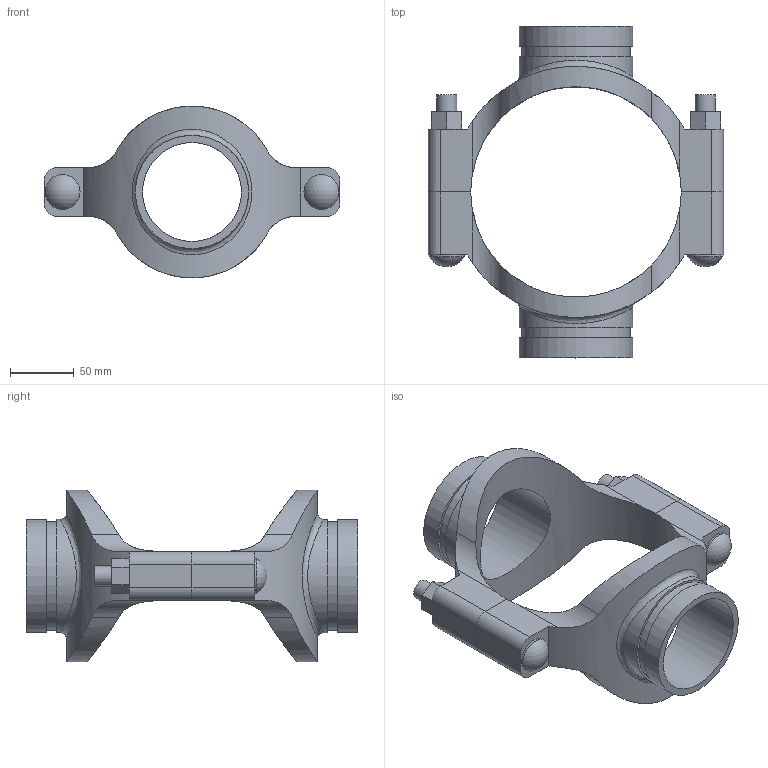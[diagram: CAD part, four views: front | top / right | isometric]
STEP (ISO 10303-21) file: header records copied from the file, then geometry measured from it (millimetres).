
FILE_DESCRIPTION(/* description */ ('VIC MECH-T BRANCH OUTLET CROSS STYLE 920N (GRVD)','CAx-IF Rec.Pracs.---Representation and Presentation of Product Manufacturing Information (PMI)---4.0---2014-10-13'),/* implementation_level */ '2;1');
FILE_NAME(/* name */ 'C:\Users\Vjadhav\AppData\Roaming\Autodesk\ApplicationPlugins\Back Up\Victaulic_IPS_Mechanical-Cross Outlet_Style 920N (OGS)\Victaulic_IPS_Mechanical-Cross Outlet_06.0 (165.1)x03.0x03.0 (150x80x80).stp',/* time_stamp */ '2020-08-06T19:45:47+05:00',/* author */ ('Vjadhav'),/* organization */ ('Victaulic'),/* preprocessor_version */ 'ST-DEVELOPER v17.2',/* originating_system */ 'Autodesk Inventor 2019',/* authorisation */ '');
FILE_SCHEMA (('AP242_MANAGED_MODEL_BASED_3D_ENGINEERING_MIM_LF { 1 0 10303 442 1 1 4 }'));
Length unit declared in the file: inch
Products named in the file (3): 920NG-06.0 (165.1)x03.0x03.0; 920G-06.0 (165.1)x03.0; 920G-06.0 (165.1)x03.0_1
Assembly tree (2 placements, depth 2):
  920NG-06.0 (165.1)x03.0x03.0
    920G-06.0 (165.1)x03.0
    920G-06.0 (165.1)x03.0_1
Bounding box: 231.9 x 260.6 x 134.87 mm (x, y, z)
Volume: 771114.3 mm3; surface area: 176294.6 mm2
Topology: 2 solids, 2 shells, 104 faces, 262 edges, 178 vertices
Faces by surface type: plane 54, cylinder 46, sphere 2, bspline 2
Full cylindrical faces by diameter (mm): 15.875 x4, 27.381 x2, 77.787 x2, 84.938 x2, 88.9 x4
Entity records: 4286 total; most frequent: CARTESIAN_POINT 1513, DIRECTION 532, ORIENTED_EDGE 524, EDGE_CURVE 262, AXIS2_PLACEMENT_3D 193, VERTEX_POINT 178, LINE 146, VECTOR 146
